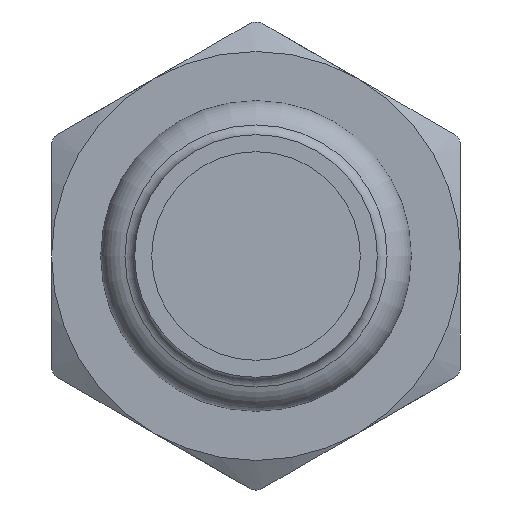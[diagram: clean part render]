
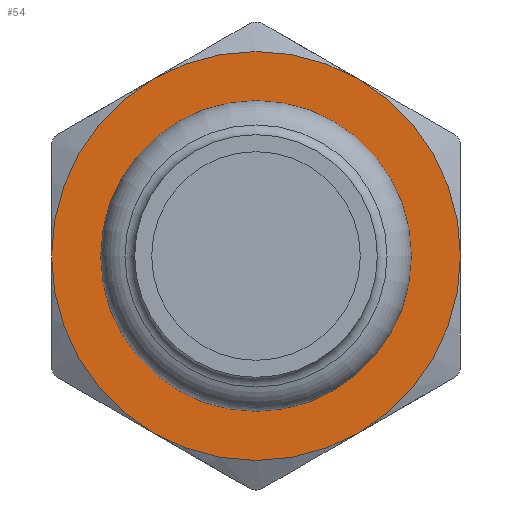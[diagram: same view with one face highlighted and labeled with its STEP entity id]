
A CAD part, front view. The second image highlights one B-rep face of the part: STEP entity #54.
In plain terms, the highlighted planar face has unit normal (0, -1, 0).
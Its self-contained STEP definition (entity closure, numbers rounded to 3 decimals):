
#54=ADVANCED_FACE('',(#95,#97),#99,.F.);
#95=FACE_BOUND('',#96,.T.);
#96=EDGE_LOOP('',(#364,#365,#366,#367,#368,#369));
#97=FACE_BOUND('',#98,.T.);
#98=EDGE_LOOP('',(#370));
#99=PLANE('',#100);
#100=AXIS2_PLACEMENT_3D('',#101,#102,#103);
#101=CARTESIAN_POINT('',(0.,35.5,0.));
#102=DIRECTION('',(0.,1.,0.));
#103=DIRECTION('',(-1.,0.,0.));
#364=ORIENTED_EDGE('',*,*,#494,.T.);
#365=ORIENTED_EDGE('',*,*,#495,.T.);
#366=ORIENTED_EDGE('',*,*,#496,.T.);
#367=ORIENTED_EDGE('',*,*,#497,.T.);
#368=ORIENTED_EDGE('',*,*,#498,.T.);
#369=ORIENTED_EDGE('',*,*,#499,.T.);
#370=ORIENTED_EDGE('',*,*,#500,.T.);
#494=EDGE_CURVE('',#560,#561,#562,.F.);
#495=EDGE_CURVE('',#561,#563,#564,.F.);
#496=EDGE_CURVE('',#563,#565,#566,.F.);
#497=EDGE_CURVE('',#565,#567,#568,.F.);
#498=EDGE_CURVE('',#567,#569,#570,.F.);
#499=EDGE_CURVE('',#569,#560,#571,.F.);
#500=EDGE_CURVE('',#572,#572,#573,.T.);
#560=VERTEX_POINT('',#675);
#561=VERTEX_POINT('',#676);
#562=CIRCLE('',#677,15.);
#563=VERTEX_POINT('',#681);
#564=CIRCLE('',#682,15.);
#565=VERTEX_POINT('',#686);
#566=CIRCLE('',#687,15.);
#567=VERTEX_POINT('',#691);
#568=CIRCLE('',#692,15.);
#569=VERTEX_POINT('',#696);
#570=CIRCLE('',#697,15.);
#571=CIRCLE('',#701,15.);
#572=VERTEX_POINT('',#705);
#573=CIRCLE('',#706,7.5);
#675=CARTESIAN_POINT('',(7.5,35.5,-12.99));
#676=CARTESIAN_POINT('',(15.,35.5,0.));
#677=AXIS2_PLACEMENT_3D('',#678,#679,#680);
#678=CARTESIAN_POINT('',(0.,35.5,0.));
#679=DIRECTION('',(0.,1.,0.));
#680=DIRECTION('',(1.,0.,0.));
#681=CARTESIAN_POINT('',(7.5,35.5,12.99));
#682=AXIS2_PLACEMENT_3D('',#683,#684,#685);
#683=CARTESIAN_POINT('',(0.,35.5,0.));
#684=DIRECTION('',(0.,1.,0.));
#685=DIRECTION('',(0.5,0.,0.866));
#686=CARTESIAN_POINT('',(-7.5,35.5,12.99));
#687=AXIS2_PLACEMENT_3D('',#688,#689,#690);
#688=CARTESIAN_POINT('',(0.,35.5,0.));
#689=DIRECTION('',(0.,1.,0.));
#690=DIRECTION('',(-0.5,0.,0.866));
#691=CARTESIAN_POINT('',(-15.,35.5,0.));
#692=AXIS2_PLACEMENT_3D('',#693,#694,#695);
#693=CARTESIAN_POINT('',(0.,35.5,0.));
#694=DIRECTION('',(0.,1.,0.));
#695=DIRECTION('',(-1.,0.,0.));
#696=CARTESIAN_POINT('',(-7.5,35.5,-12.99));
#697=AXIS2_PLACEMENT_3D('',#698,#699,#700);
#698=CARTESIAN_POINT('',(0.,35.5,0.));
#699=DIRECTION('',(0.,1.,0.));
#700=DIRECTION('',(-0.5,0.,-0.866));
#701=AXIS2_PLACEMENT_3D('',#702,#703,#704);
#702=CARTESIAN_POINT('',(0.,35.5,0.));
#703=DIRECTION('',(0.,1.,0.));
#704=DIRECTION('',(0.5,0.,-0.866));
#705=CARTESIAN_POINT('',(-7.5,35.5,0.));
#706=AXIS2_PLACEMENT_3D('',#707,#708,#709);
#707=CARTESIAN_POINT('',(0.,35.5,0.));
#708=DIRECTION('',(0.,1.,0.));
#709=DIRECTION('',(-1.,0.,0.));
